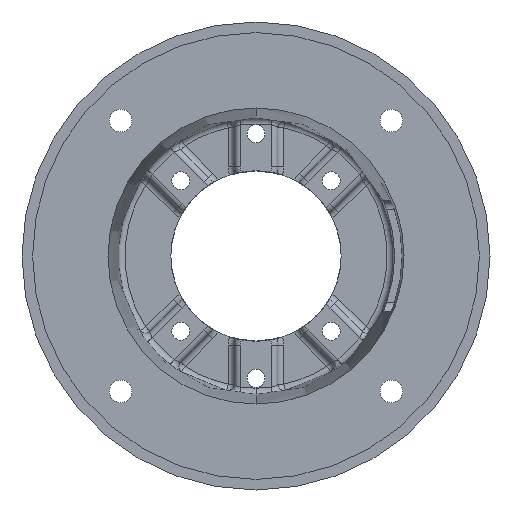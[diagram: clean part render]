
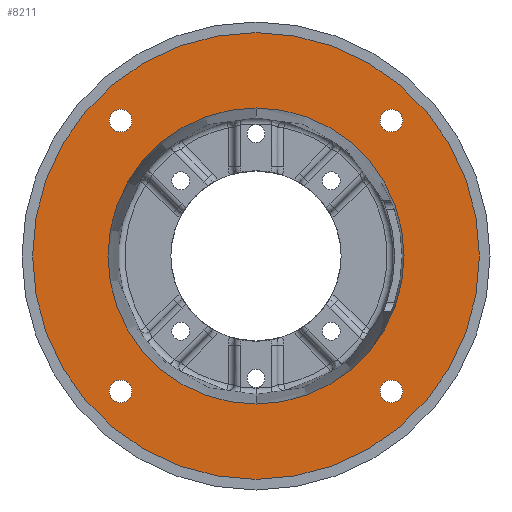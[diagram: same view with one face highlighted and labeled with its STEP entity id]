
A CAD part, front view. The second image highlights one B-rep face of the part: STEP entity #8211.
In plain terms, the highlighted planar face has unit normal (0, -1, 0).
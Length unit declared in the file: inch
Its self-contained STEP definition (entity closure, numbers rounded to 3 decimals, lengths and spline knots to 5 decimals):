
#606 = VERTEX_POINT ( 'NONE', #10757 ) ;
#608 = EDGE_CURVE ( 'NONE', #606, #8869, #10812, .T. ) ;
#3504 = DIRECTION ( 'NONE',  ( 0., 0., -1. ) ) ;
#3505 = DIRECTION ( 'NONE',  ( 0., -1., 0. ) ) ;
#3506 = CARTESIAN_POINT ( 'NONE',  ( -3.18198, 0.18, 3.18198 ) ) ;
#3507 = AXIS2_PLACEMENT_3D ( 'NONE', #3506, #3505, #3504 ) ;
#3508 = CIRCLE ( 'NONE', #3507, 0.26562 ) ;
#3510 = DIRECTION ( 'NONE',  ( 0., 0., -1. ) ) ;
#3511 = DIRECTION ( 'NONE',  ( 0., -1., 0. ) ) ;
#3512 = CARTESIAN_POINT ( 'NONE',  ( 0., 0.18, 0. ) ) ;
#3513 = AXIS2_PLACEMENT_3D ( 'NONE', #3512, #3511, #3510 ) ;
#3514 = PLANE ( 'NONE',  #3513 ) ;
#3515 = FACE_BOUND ( 'NONE', #8255, .T. ) ;
#3516 = FACE_OUTER_BOUND ( 'NONE', #8201, .T. ) ;
#3517 = FACE_BOUND ( 'NONE', #8272, .T. ) ;
#3518 = FACE_BOUND ( 'NONE', #8268, .T. ) ;
#3519 = FACE_BOUND ( 'NONE', #8215, .T. ) ;
#3524 = FACE_BOUND ( 'NONE', #8212, .T. ) ;
#3573 = DIRECTION ( 'NONE',  ( 0., 0., -1. ) ) ;
#3574 = DIRECTION ( 'NONE',  ( 0., -1., 0. ) ) ;
#3575 = CARTESIAN_POINT ( 'NONE',  ( -3.18198, 0.18, -3.18198 ) ) ;
#3576 = AXIS2_PLACEMENT_3D ( 'NONE', #3575, #3574, #3573 ) ;
#3577 = CIRCLE ( 'NONE', #3576, 0.26562 ) ;
#3578 = DIRECTION ( 'NONE',  ( 0., 0., -1. ) ) ;
#3579 = DIRECTION ( 'NONE',  ( 0., -1., 0. ) ) ;
#3580 = CARTESIAN_POINT ( 'NONE',  ( 3.18198, 0.18, -3.18198 ) ) ;
#3581 = AXIS2_PLACEMENT_3D ( 'NONE', #3580, #3579, #3578 ) ;
#3582 = CIRCLE ( 'NONE', #3581, 0.26562 ) ;
#3583 = DIRECTION ( 'NONE',  ( 0., 0., -1. ) ) ;
#3584 = DIRECTION ( 'NONE',  ( 0., -1., 0. ) ) ;
#3585 = AXIS2_PLACEMENT_3D ( 'NONE', #3591, #3584, #3583 ) ;
#3586 = CIRCLE ( 'NONE', #3585, 0.26562 ) ;
#3591 = CARTESIAN_POINT ( 'NONE',  ( 3.18198, 0.18, 3.18198 ) ) ;
#3594 = DIRECTION ( 'NONE',  ( 0., 0., -1. ) ) ;
#3595 = DIRECTION ( 'NONE',  ( 0., -1., 0. ) ) ;
#3596 = CARTESIAN_POINT ( 'NONE',  ( 0., 0.18, 0. ) ) ;
#3597 = AXIS2_PLACEMENT_3D ( 'NONE', #3596, #3595, #3594 ) ;
#3598 = CIRCLE ( 'NONE', #3597, 5.2505 ) ;
#5160 = CARTESIAN_POINT ( 'NONE',  ( 3.18198, 0.18, 3.44761 ) ) ;
#5161 = CARTESIAN_POINT ( 'NONE',  ( 3.18198, 0.18, -3.44761 ) ) ;
#5162 = DIRECTION ( 'NONE',  ( 0., 0., -1. ) ) ;
#5163 = DIRECTION ( 'NONE',  ( 0., -1., 0. ) ) ;
#5164 = AXIS2_PLACEMENT_3D ( 'NONE', #5169, #5163, #5162 ) ;
#5165 = CIRCLE ( 'NONE', #5164, 0.26562 ) ;
#5169 = CARTESIAN_POINT ( 'NONE',  ( 3.18198, 0.18, -3.18198 ) ) ;
#5209 = CARTESIAN_POINT ( 'NONE',  ( -3.18198, 0.18, 2.91636 ) ) ;
#5287 = CARTESIAN_POINT ( 'NONE',  ( -3.18198, 0.18, -3.44761 ) ) ;
#5288 = CIRCLE ( 'NONE', #5350, 0.26562 ) ;
#5314 = CARTESIAN_POINT ( 'NONE',  ( 0., 0.18, -5.2505 ) ) ;
#5315 = DIRECTION ( 'NONE',  ( 0., 0., -1. ) ) ;
#5316 = DIRECTION ( 'NONE',  ( 0., -1., 0. ) ) ;
#5317 = CARTESIAN_POINT ( 'NONE',  ( 0., 0.18, 0. ) ) ;
#5318 = AXIS2_PLACEMENT_3D ( 'NONE', #5317, #5316, #5315 ) ;
#5319 = CIRCLE ( 'NONE', #5318, 5.2505 ) ;
#5320 = CARTESIAN_POINT ( 'NONE',  ( 3.18198, 0.18, 3.18198 ) ) ;
#5321 = AXIS2_PLACEMENT_3D ( 'NONE', #5320, #5384, #5383 ) ;
#5322 = CIRCLE ( 'NONE', #5321, 0.26562 ) ;
#5339 = CARTESIAN_POINT ( 'NONE',  ( 3.18198, 0.18, -2.91636 ) ) ;
#5340 = CARTESIAN_POINT ( 'NONE',  ( -3.18198, 0.18, -2.91636 ) ) ;
#5347 = DIRECTION ( 'NONE',  ( 0., 0., -1. ) ) ;
#5348 = DIRECTION ( 'NONE',  ( 0., -1., 0. ) ) ;
#5349 = CARTESIAN_POINT ( 'NONE',  ( -3.18198, 0.18, -3.18198 ) ) ;
#5350 = AXIS2_PLACEMENT_3D ( 'NONE', #5349, #5348, #5347 ) ;
#5376 = CARTESIAN_POINT ( 'NONE',  ( 3.18198, 0.18, 2.91636 ) ) ;
#5383 = DIRECTION ( 'NONE',  ( 0., 0., -1. ) ) ;
#5384 = DIRECTION ( 'NONE',  ( 0., -1., 0. ) ) ;
#5419 = CARTESIAN_POINT ( 'NONE',  ( 0., 0.18, 5.2505 ) ) ;
#5758 = CARTESIAN_POINT ( 'NONE',  ( 0., 0.18, -3.47973 ) ) ;
#5895 = DIRECTION ( 'NONE',  ( 0., 0., -1. ) ) ;
#5896 = DIRECTION ( 'NONE',  ( 0., 1., 0. ) ) ;
#5897 = CARTESIAN_POINT ( 'NONE',  ( 0., 0.18, 0. ) ) ;
#5898 = AXIS2_PLACEMENT_3D ( 'NONE', #5897, #5896, #5895 ) ;
#5899 = CIRCLE ( 'NONE', #5898, 3.47973 ) ;
#6160 = CARTESIAN_POINT ( 'NONE',  ( 0., 0.18, 3.47973 ) ) ;
#6535 = DIRECTION ( 'NONE',  ( 0., 0., -1. ) ) ;
#6536 = DIRECTION ( 'NONE',  ( 0., 1., 0. ) ) ;
#6537 = AXIS2_PLACEMENT_3D ( 'NONE', #6545, #6536, #6535 ) ;
#6538 = CIRCLE ( 'NONE', #6537, 3.47973 ) ;
#6545 = CARTESIAN_POINT ( 'NONE',  ( 0., 0.18, 0. ) ) ;
#8201 = EDGE_LOOP ( 'NONE', ( #8202, #8254 ) ) ;
#8202 = ORIENTED_EDGE ( 'NONE', *, *, #8253, .T. ) ;
#8211 = ADVANCED_FACE ( 'NONE', ( #3524, #3519, #3518, #3517, #3516, #3515 ), #3514, .T. ) ;
#8212 = EDGE_LOOP ( 'NONE', ( #8213, #8264 ) ) ;
#8213 = ORIENTED_EDGE ( 'NONE', *, *, #8214, .F. ) ;
#8214 = EDGE_CURVE ( 'NONE', #8869, #606, #3508, .T. ) ;
#8215 = EDGE_LOOP ( 'NONE', ( #8265, #8267 ) ) ;
#8253 = EDGE_CURVE ( 'NONE', #8904, #8981, #3598, .T. ) ;
#8254 = ORIENTED_EDGE ( 'NONE', *, *, #8903, .T. ) ;
#8255 = EDGE_LOOP ( 'NONE', ( #8256, #8257 ) ) ;
#8256 = ORIENTED_EDGE ( 'NONE', *, *, #9130, .T. ) ;
#8257 = ORIENTED_EDGE ( 'NONE', *, *, #9290, .T. ) ;
#8264 = ORIENTED_EDGE ( 'NONE', *, *, #608, .F. ) ;
#8265 = ORIENTED_EDGE ( 'NONE', *, *, #8266, .F. ) ;
#8266 = EDGE_CURVE ( 'NONE', #8936, #8861, #3586, .T. ) ;
#8267 = ORIENTED_EDGE ( 'NONE', *, *, #8931, .F. ) ;
#8268 = EDGE_LOOP ( 'NONE', ( #8269, #8271 ) ) ;
#8269 = ORIENTED_EDGE ( 'NONE', *, *, #8270, .F. ) ;
#8270 = EDGE_CURVE ( 'NONE', #8860, #8922, #3582, .T. ) ;
#8271 = ORIENTED_EDGE ( 'NONE', *, *, #8859, .F. ) ;
#8272 = EDGE_LOOP ( 'NONE', ( #8273, #8275 ) ) ;
#8273 = ORIENTED_EDGE ( 'NONE', *, *, #8274, .F. ) ;
#8274 = EDGE_CURVE ( 'NONE', #8914, #8918, #3577, .T. ) ;
#8275 = ORIENTED_EDGE ( 'NONE', *, *, #8915, .F. ) ;
#8859 = EDGE_CURVE ( 'NONE', #8922, #8860, #5165, .T. ) ;
#8860 = VERTEX_POINT ( 'NONE', #5161 ) ;
#8861 = VERTEX_POINT ( 'NONE', #5160 ) ;
#8869 = VERTEX_POINT ( 'NONE', #5209 ) ;
#8903 = EDGE_CURVE ( 'NONE', #8981, #8904, #5319, .T. ) ;
#8904 = VERTEX_POINT ( 'NONE', #5314 ) ;
#8914 = VERTEX_POINT ( 'NONE', #5287 ) ;
#8915 = EDGE_CURVE ( 'NONE', #8918, #8914, #5288, .T. ) ;
#8918 = VERTEX_POINT ( 'NONE', #5340 ) ;
#8922 = VERTEX_POINT ( 'NONE', #5339 ) ;
#8931 = EDGE_CURVE ( 'NONE', #8861, #8936, #5322, .T. ) ;
#8936 = VERTEX_POINT ( 'NONE', #5376 ) ;
#8981 = VERTEX_POINT ( 'NONE', #5419 ) ;
#9103 = VERTEX_POINT ( 'NONE', #5758 ) ;
#9130 = EDGE_CURVE ( 'NONE', #9103, #9205, #5899, .T. ) ;
#9205 = VERTEX_POINT ( 'NONE', #6160 ) ;
#9290 = EDGE_CURVE ( 'NONE', #9205, #9103, #6538, .T. ) ;
#10757 = CARTESIAN_POINT ( 'NONE',  ( -3.18198, 0.18, 3.44761 ) ) ;
#10808 = DIRECTION ( 'NONE',  ( 0., 0., -1. ) ) ;
#10809 = DIRECTION ( 'NONE',  ( 0., -1., 0. ) ) ;
#10810 = CARTESIAN_POINT ( 'NONE',  ( -3.18198, 0.18, 3.18198 ) ) ;
#10811 = AXIS2_PLACEMENT_3D ( 'NONE', #10810, #10809, #10808 ) ;
#10812 = CIRCLE ( 'NONE', #10811, 0.26562 ) ;
